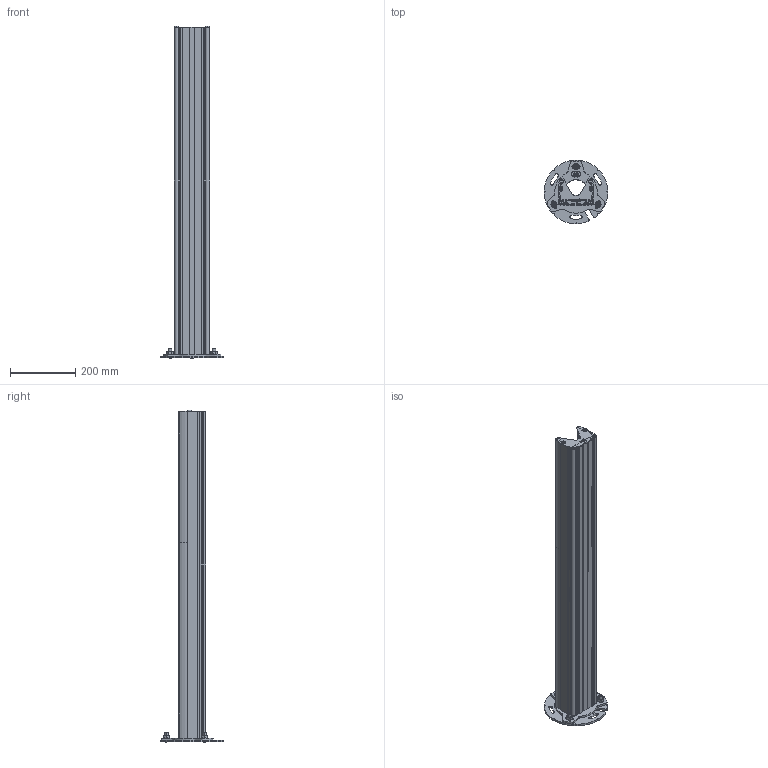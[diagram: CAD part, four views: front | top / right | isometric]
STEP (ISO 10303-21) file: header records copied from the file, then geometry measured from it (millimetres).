
FILE_DESCRIPTION((''),'2;1');
FILE_NAME('2011247','2012-09-07T',('rink'),(''),'PRO/ENGINEER BY PARAMETRIC TECHNOLOGY CORPORATION, 2011040','PRO/ENGINEER BY PARAMETRIC TECHNOLOGY CORPORATION, 2011040','');
FILE_SCHEMA(('AUTOMOTIVE_DESIGN_CC2 { 1 2 10303 214 -1 1 5 2 }'));
Products named in the file (1): 2011247
Bounding box: 194.91 x 194.91 x 1017.9 mm (x, y, z)
Surface area: 913089.9 mm2
Topology: 5 solids, 71 shells, 735 faces, 2495 edges, 1756 vertices
Faces by surface type: plane 339, cylinder 263, extrusion 73, cone 56, sphere 4
Entity records: 50220 total; most frequent: CARTESIAN_POINT 21173, ORIENTED_EDGE 4100, DIRECTION 4093, PRESENTATION_STYLE_ASSIGNMENT 2568, STYLED_ITEM 2563, CURVE_STYLE 2492, EDGE_CURVE 2487, VERTEX_POINT 1748
